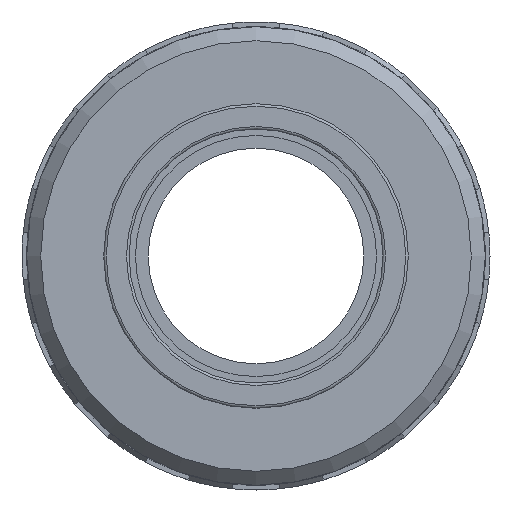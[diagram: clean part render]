
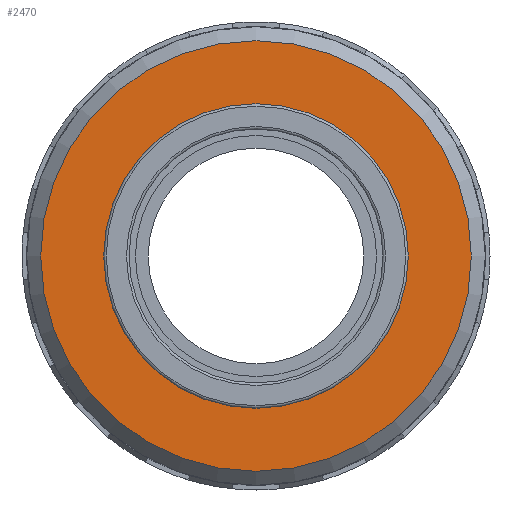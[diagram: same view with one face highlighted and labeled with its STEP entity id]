
A CAD part, left-side view. The second image highlights one B-rep face of the part: STEP entity #2470.
In plain terms, the highlighted planar face has unit normal (-1, 0, 0).
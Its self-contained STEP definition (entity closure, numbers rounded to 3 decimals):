
#64=FACE_BOUND('',#497,.T.);
#213=CIRCLE('',#2723,19.2);
#216=CIRCLE('',#2730,27.14);
#348=FACE_OUTER_BOUND('',#496,.T.);
#496=EDGE_LOOP('',(#2252));
#497=EDGE_LOOP('',(#2253));
#1191=VERTEX_POINT('',#4199);
#1194=VERTEX_POINT('',#4211);
#1544=EDGE_CURVE('',#1191,#1191,#213,.T.);
#1549=EDGE_CURVE('',#1194,#1194,#216,.T.);
#2252=ORIENTED_EDGE('',*,*,#1549,.F.);
#2253=ORIENTED_EDGE('',*,*,#1544,.F.);
#2339=PLANE('',#2732);
#2470=ADVANCED_FACE('',(#348,#64),#2339,.T.);
#2723=AXIS2_PLACEMENT_3D('',#4200,#3456,#3457);
#2730=AXIS2_PLACEMENT_3D('',#4212,#3472,#3473);
#2732=AXIS2_PLACEMENT_3D('',#4214,#3476,#3477);
#3456=DIRECTION('center_axis',(-1.,0.,0.));
#3457=DIRECTION('ref_axis',(0.,0.,1.));
#3472=DIRECTION('center_axis',(1.,0.,0.));
#3473=DIRECTION('ref_axis',(0.,1.,0.));
#3476=DIRECTION('center_axis',(-1.,0.,0.));
#3477=DIRECTION('ref_axis',(0.,0.,1.));
#4199=CARTESIAN_POINT('',(-12.,-19.2,0.));
#4200=CARTESIAN_POINT('Origin',(-12.,0.,0.));
#4211=CARTESIAN_POINT('',(-12.,-27.14,0.));
#4212=CARTESIAN_POINT('Origin',(-12.,0.,0.));
#4214=CARTESIAN_POINT('Origin',(-12.,-19.2,0.));
